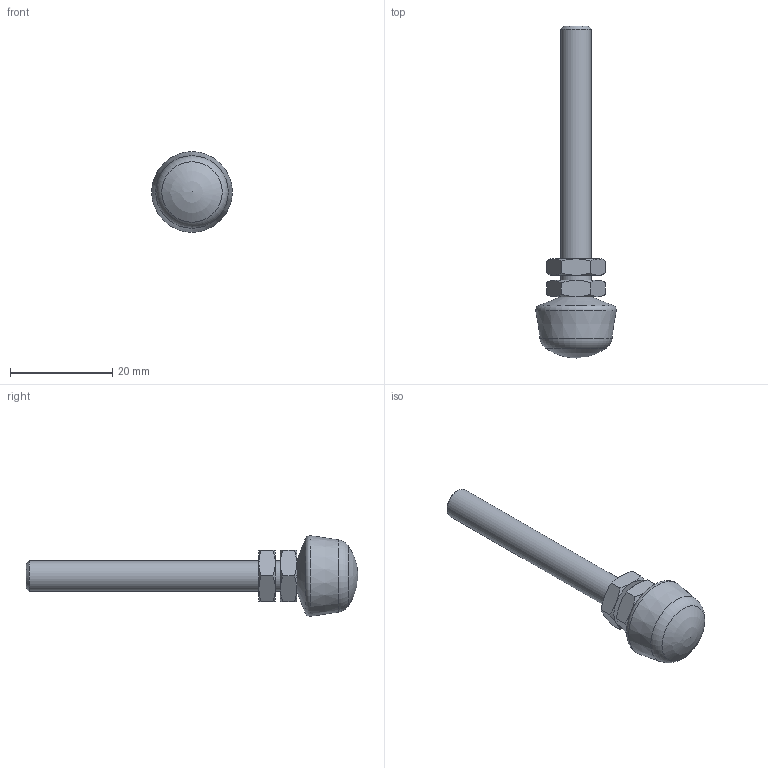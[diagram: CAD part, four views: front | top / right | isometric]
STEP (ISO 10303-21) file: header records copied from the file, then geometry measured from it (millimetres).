
FILE_DESCRIPTION( ( 'STEP AP203' ), '1' );
FILE_NAME( 'C:/Temp/Ganter_Step_05_03_2020/data/2_4/gn_708_1/gn_708_1_ni/Stainless Steel-Clamping bolt GN 708.1-M6-65-B-NI (0).stp', '2020-03-13T05:51:24', ( 'License CC BY-ND 4.0' ), ( 'CADENAS' ), ' ', 'PARTsolutions', ' ' );
FILE_SCHEMA( ( 'CONFIG_CONTROL_DESIGN' ) );
Length unit declared in the file: millimetre
Products named in the file (3): Stainless Steel-Clamping bolt GN 708.1-M6-65-B-NI (0); _Edelstahl-Andrueckschraube GN 708.1-M6-65-B-NI (0)-1; _Edelstahl-Andrueckschraube GN 708.1-M6-65-B-NI-2
Assembly tree (3 placements, depth 2):
  Stainless Steel-Clamping bolt GN 708.1-M6-65-B-NI (0)
    _Edelstahl-Andrueckschraube GN 708.1-M6-65-B-NI (0)-1
    _Edelstahl-Andrueckschraube GN 708.1-M6-65-B-NI-2  x2
Bounding box: 15.78 x 65 x 15.78 mm (x, y, z)
Volume: 3588.6 mm3; surface area: 2261.9 mm2
Topology: 3 solids, 3 shells, 54 faces, 114 edges, 65 vertices
Faces by surface type: cone 31, plane 17, cylinder 3, torus 2, sphere 1
Full cylindrical faces by diameter (mm): 4.917 x2, 6 x1
Entity records: 942 total; most frequent: CARTESIAN_POINT 245, DIRECTION 122, ORIENTED_EDGE 106, AXIS2_PLACEMENT_3D 58, EDGE_CURVE 53, EDGE_LOOP 42, VERTEX_POINT 37, FACE_OUTER_BOUND 35
